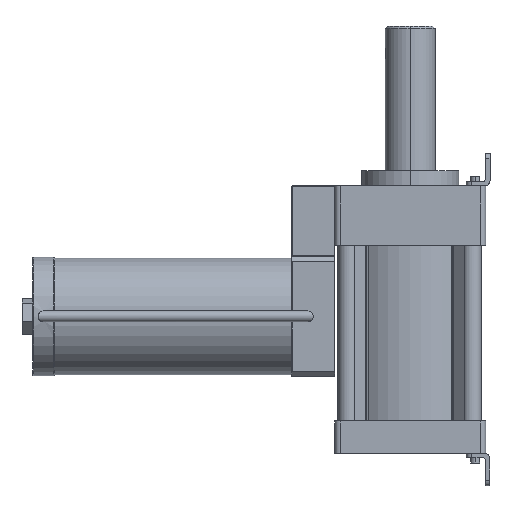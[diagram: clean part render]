
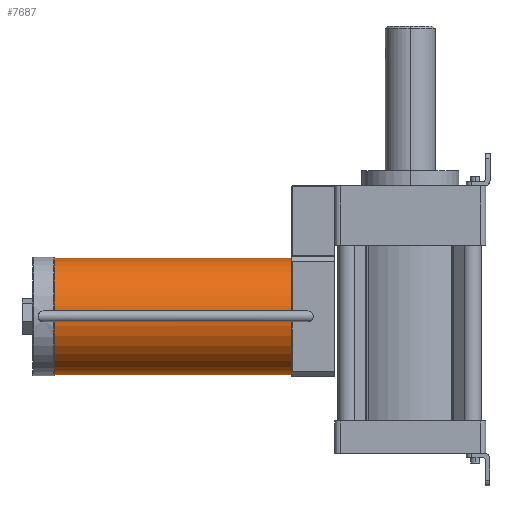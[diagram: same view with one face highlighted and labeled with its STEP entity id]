
A CAD part, left-side view. The second image highlights one B-rep face of the part: STEP entity #7687.
In plain terms, the highlighted cylindrical face has radius 54 mm (diameter 108 mm), a partial arc.
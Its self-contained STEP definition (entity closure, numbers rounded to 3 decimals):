
#241 = AXIS2_PLACEMENT_3D ( 'NONE', #4218, #4209, #4191 ) ;
#587 = EDGE_CURVE ( 'NONE', #9027, #4150, #2296, .T. ) ;
#601 = CARTESIAN_POINT ( 'NONE',  ( 0., 330., -39.5 ) ) ;
#633 = AXIS2_PLACEMENT_3D ( 'NONE', #11089, #5506, #12037 ) ;
#1197 = CARTESIAN_POINT ( 'NONE',  ( 0., 330., -147.5 ) ) ;
#1984 = CARTESIAN_POINT ( 'NONE',  ( 0., 330., -93.5 ) ) ;
#2296 = CIRCLE ( 'NONE', #241, 54. ) ;
#2999 = DIRECTION ( 'NONE',  ( 0., 0., -1. ) ) ;
#3234 = CIRCLE ( 'NONE', #633, 54. ) ;
#3962 = ORIENTED_EDGE ( 'NONE', *, *, #10046, .T. ) ;
#4150 = VERTEX_POINT ( 'NONE', #8695 ) ;
#4191 = DIRECTION ( 'NONE',  ( 0., 0., -1. ) ) ;
#4209 = DIRECTION ( 'NONE',  ( 0., 1., 0. ) ) ;
#4218 = CARTESIAN_POINT ( 'NONE',  ( 0., 110., -93.5 ) ) ;
#4219 = CARTESIAN_POINT ( 'NONE',  ( 0., 110., -147.5 ) ) ;
#5234 = FACE_OUTER_BOUND ( 'NONE', #8487, .T. ) ;
#5506 = DIRECTION ( 'NONE',  ( 0., 1., 0. ) ) ;
#5697 = VECTOR ( 'NONE', #6513, 1000. ) ;
#6308 = LINE ( 'NONE', #601, #5697 ) ;
#6513 = DIRECTION ( 'NONE',  ( 0., -1., 0. ) ) ;
#6541 = VERTEX_POINT ( 'NONE', #11325 ) ;
#6719 = AXIS2_PLACEMENT_3D ( 'NONE', #1984, #8703, #2999 ) ;
#7172 = CARTESIAN_POINT ( 'NONE',  ( 0., 330., -39.5 ) ) ;
#7299 = ORIENTED_EDGE ( 'NONE', *, *, #12070, .F. ) ;
#7475 = EDGE_CURVE ( 'NONE', #10094, #4150, #6308, .T. ) ;
#7687 = ADVANCED_FACE ( 'NONE', ( #5234 ), #12394, .T. ) ;
#8002 = DIRECTION ( 'NONE',  ( 0., -1., 0. ) ) ;
#8076 = ORIENTED_EDGE ( 'NONE', *, *, #7475, .F. ) ;
#8487 = EDGE_LOOP ( 'NONE', ( #8076, #7299, #3962, #9268 ) ) ;
#8695 = CARTESIAN_POINT ( 'NONE',  ( 0., 110., -39.5 ) ) ;
#8703 = DIRECTION ( 'NONE',  ( 0., -1., 0. ) ) ;
#9027 = VERTEX_POINT ( 'NONE', #4219 ) ;
#9268 = ORIENTED_EDGE ( 'NONE', *, *, #587, .T. ) ;
#10046 = EDGE_CURVE ( 'NONE', #6541, #9027, #11155, .T. ) ;
#10094 = VERTEX_POINT ( 'NONE', #7172 ) ;
#10597 = VECTOR ( 'NONE', #8002, 1000. ) ;
#11089 = CARTESIAN_POINT ( 'NONE',  ( 0., 330., -93.5 ) ) ;
#11155 = LINE ( 'NONE', #1197, #10597 ) ;
#11325 = CARTESIAN_POINT ( 'NONE',  ( 0., 330., -147.5 ) ) ;
#12037 = DIRECTION ( 'NONE',  ( 0., 0., 1. ) ) ;
#12070 = EDGE_CURVE ( 'NONE', #6541, #10094, #3234, .T. ) ;
#12394 = CYLINDRICAL_SURFACE ( 'NONE', #6719, 54. ) ;
